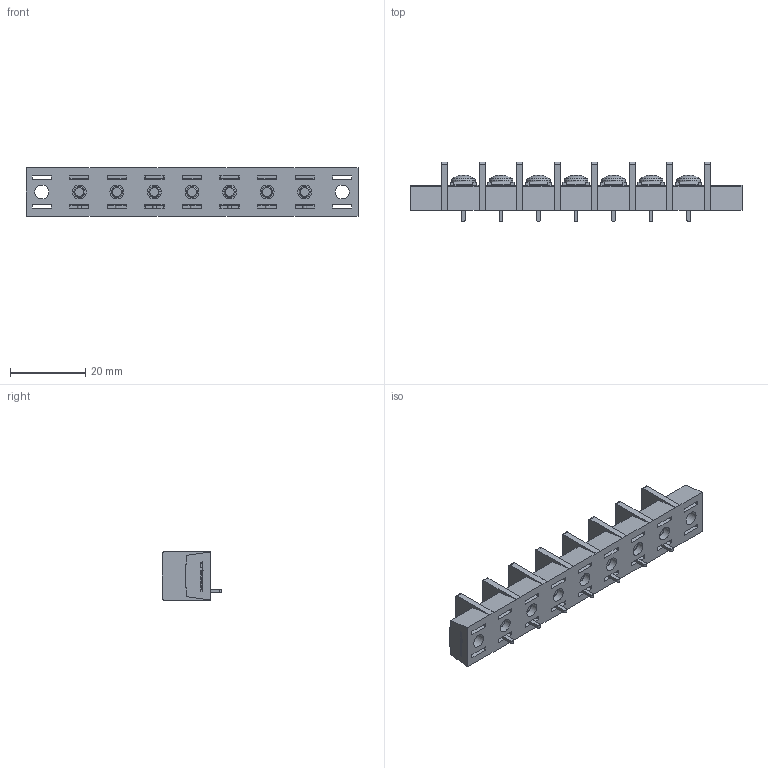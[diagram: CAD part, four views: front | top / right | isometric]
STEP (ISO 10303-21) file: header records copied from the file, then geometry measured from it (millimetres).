
FILE_DESCRIPTION(/* description */ ('Alibre Inc.'),/* implementation_level */ '2;1');
FILE_NAME(/* name */ 'export0',/* time_stamp */ '2015-10-22T19:51:15+09:00',/* author */ (''),/* organization */ (''),/* preprocessor_version */ 'ST-DEVELOPER v14',/* originating_system */ 'Alibre',/* authorisation */ '');
FILE_SCHEMA (('CONFIG_CONTROL_DESIGN'));
Length unit declared in the file: centimetre
Products named in the file (1): ID_1
Bounding box: 88.4 x 15.8 x 12.8 mm (x, y, z)
Volume: 7634.8 mm3; surface area: 8761.9 mm2
Topology: 1 solids, 120 shells, 2379 faces, 6121 edges, 4052 vertices
Faces by surface type: plane 1779, bspline 468, cylinder 76, cone 35, torus 14, sphere 7
Full cylindrical faces by diameter (mm): 3 x14, 3.7 x9, 4.6 x9, 6.3 x7
Entity records: 68936 total; most frequent: CARTESIAN_POINT 16684, ORIENTED_EDGE 12076, DIRECTION 7212, EDGE_CURVE 6038, VECTOR 4661, LINE 4661, VERTEX_POINT 4029, EDGE_LOOP 2619
